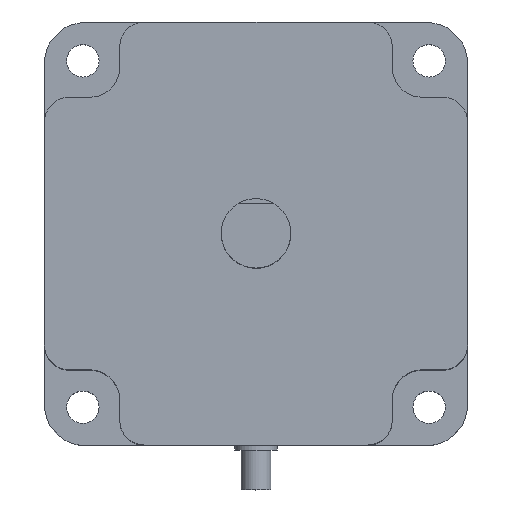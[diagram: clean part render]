
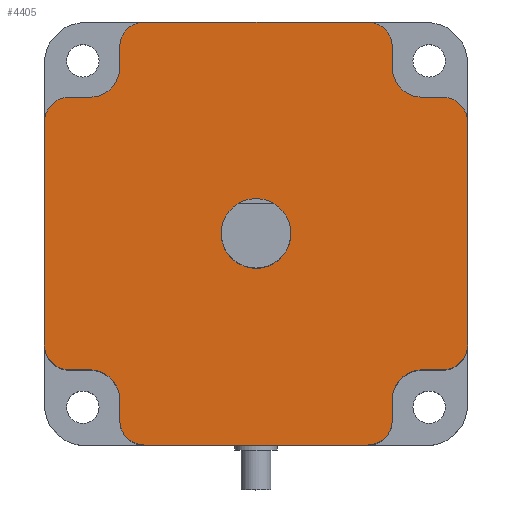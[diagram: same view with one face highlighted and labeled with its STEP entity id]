
A CAD part, top view. The second image highlights one B-rep face of the part: STEP entity #4405.
In plain terms, the highlighted planar face has unit normal (0, 0, 1).
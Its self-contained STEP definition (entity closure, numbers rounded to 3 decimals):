
#105=CARTESIAN_POINT('',(7.,0.,56.));
#106=VERTEX_POINT('',#105);
#107=CARTESIAN_POINT('',(0.0,0.,56.));
#108=DIRECTION('',(0.0,0.0,-1.0));
#109=DIRECTION('',(-1.0,0.0,0.0));
#110=AXIS2_PLACEMENT_3D('',#107,#108,#109);
#111=CIRCLE('',#110,7.);
#112=EDGE_CURVE('',#106,#106,#111,.T.);
#1389=CARTESIAN_POINT('',(27.378,37.5,56.));
#1390=VERTEX_POINT('',#1389);
#1397=CARTESIAN_POINT('',(27.378,33.378,56.));
#1398=VERTEX_POINT('',#1397);
#1399=CARTESIAN_POINT('',(27.378,37.5,56.));
#1400=DIRECTION('',(0.0,-1.0,0.0));
#1401=VECTOR('',#1400,4.122);
#1402=LINE('',#1399,#1401);
#1403=EDGE_CURVE('',#1390,#1398,#1402,.T.);
#1421=CARTESIAN_POINT('',(33.378,27.378,56.));
#1422=VERTEX_POINT('',#1421);
#1423=CARTESIAN_POINT('',(33.378,33.378,56.));
#1424=DIRECTION('',(0.0,0.0,1.));
#1425=DIRECTION('',(-0.707,-0.707,0.0));
#1426=AXIS2_PLACEMENT_3D('',#1423,#1424,#1425);
#1427=CIRCLE('',#1426,6.0);
#1428=EDGE_CURVE('',#1398,#1422,#1427,.T.);
#1477=CARTESIAN_POINT('',(22.378,42.5,56.));
#1478=VERTEX_POINT('',#1477);
#1485=CARTESIAN_POINT('',(22.378,37.5,56.));
#1486=DIRECTION('',(0.0,0.0,-1.0));
#1487=DIRECTION('',(0.707,0.707,0.0));
#1488=AXIS2_PLACEMENT_3D('',#1485,#1486,#1487);
#1489=CIRCLE('',#1488,5.0);
#1490=EDGE_CURVE('',#1478,#1390,#1489,.T.);
#1503=CARTESIAN_POINT('',(37.5,27.378,56.));
#1504=VERTEX_POINT('',#1503);
#1505=CARTESIAN_POINT('',(33.378,27.378,56.));
#1506=DIRECTION('',(1.0,0.0,0.0));
#1507=VECTOR('',#1506,4.122);
#1508=LINE('',#1505,#1507);
#1509=EDGE_CURVE('',#1422,#1504,#1508,.T.);
#1550=CARTESIAN_POINT('',(-22.378,42.5,56.));
#1551=VERTEX_POINT('',#1550);
#1558=CARTESIAN_POINT('',(-22.378,42.5,56.));
#1559=DIRECTION('',(1.0,0.0,0.0));
#1560=VECTOR('',#1559,44.757);
#1561=LINE('',#1558,#1560);
#1562=EDGE_CURVE('',#1551,#1478,#1561,.T.);
#1575=CARTESIAN_POINT('',(42.5,22.378,56.));
#1576=VERTEX_POINT('',#1575);
#1577=CARTESIAN_POINT('',(37.5,22.378,56.));
#1578=DIRECTION('',(0.0,0.0,-1.));
#1579=DIRECTION('',(0.707,0.707,0.0));
#1580=AXIS2_PLACEMENT_3D('',#1577,#1578,#1579);
#1581=CIRCLE('',#1580,5.);
#1582=EDGE_CURVE('',#1504,#1576,#1581,.T.);
#1624=CARTESIAN_POINT('',(-27.378,37.5,56.));
#1625=VERTEX_POINT('',#1624);
#1632=CARTESIAN_POINT('',(-22.378,37.5,56.));
#1633=DIRECTION('',(0.0,0.0,-1.));
#1634=DIRECTION('',(-0.707,0.707,0.0));
#1635=AXIS2_PLACEMENT_3D('',#1632,#1633,#1634);
#1636=CIRCLE('',#1635,5.);
#1637=EDGE_CURVE('',#1625,#1551,#1636,.T.);
#1650=CARTESIAN_POINT('',(42.5,-22.378,56.));
#1651=VERTEX_POINT('',#1650);
#1652=CARTESIAN_POINT('',(42.5,22.378,56.));
#1653=DIRECTION('',(0.0,-1.0,0.0));
#1654=VECTOR('',#1653,44.757);
#1655=LINE('',#1652,#1654);
#1656=EDGE_CURVE('',#1576,#1651,#1655,.T.);
#1697=CARTESIAN_POINT('',(-27.378,33.378,56.));
#1698=VERTEX_POINT('',#1697);
#1705=CARTESIAN_POINT('',(-27.378,33.378,56.));
#1706=DIRECTION('',(0.0,1.0,0.0));
#1707=VECTOR('',#1706,4.122);
#1708=LINE('',#1705,#1707);
#1709=EDGE_CURVE('',#1698,#1625,#1708,.T.);
#1722=CARTESIAN_POINT('',(37.5,-27.378,56.));
#1723=VERTEX_POINT('',#1722);
#1724=CARTESIAN_POINT('',(37.5,-22.378,56.));
#1725=DIRECTION('',(0.0,0.0,-1.));
#1726=DIRECTION('',(0.707,-0.707,0.0));
#1727=AXIS2_PLACEMENT_3D('',#1724,#1725,#1726);
#1728=CIRCLE('',#1727,5.);
#1729=EDGE_CURVE('',#1651,#1723,#1728,.T.);
#1771=CARTESIAN_POINT('',(-33.378,27.378,56.));
#1772=VERTEX_POINT('',#1771);
#1779=CARTESIAN_POINT('',(-33.378,33.378,56.));
#1780=DIRECTION('',(0.0,0.0,1.));
#1781=DIRECTION('',(0.707,-0.707,0.0));
#1782=AXIS2_PLACEMENT_3D('',#1779,#1780,#1781);
#1783=CIRCLE('',#1782,6.);
#1784=EDGE_CURVE('',#1772,#1698,#1783,.T.);
#1797=CARTESIAN_POINT('',(33.378,-27.378,56.));
#1798=VERTEX_POINT('',#1797);
#1799=CARTESIAN_POINT('',(37.5,-27.378,56.));
#1800=DIRECTION('',(-1.0,0.0,0.0));
#1801=VECTOR('',#1800,4.122);
#1802=LINE('',#1799,#1801);
#1803=EDGE_CURVE('',#1723,#1798,#1802,.T.);
#1844=CARTESIAN_POINT('',(-37.5,27.378,56.));
#1845=VERTEX_POINT('',#1844);
#1852=CARTESIAN_POINT('',(-37.5,27.378,56.));
#1853=DIRECTION('',(1.0,0.0,0.0));
#1854=VECTOR('',#1853,4.122);
#1855=LINE('',#1852,#1854);
#1856=EDGE_CURVE('',#1845,#1772,#1855,.T.);
#1869=CARTESIAN_POINT('',(27.378,-33.378,56.));
#1870=VERTEX_POINT('',#1869);
#1871=CARTESIAN_POINT('',(33.378,-33.378,56.));
#1872=DIRECTION('',(0.0,0.0,1.));
#1873=DIRECTION('',(-0.707,0.707,0.0));
#1874=AXIS2_PLACEMENT_3D('',#1871,#1872,#1873);
#1875=CIRCLE('',#1874,6.0);
#1876=EDGE_CURVE('',#1798,#1870,#1875,.T.);
#1918=CARTESIAN_POINT('',(-42.5,22.378,56.));
#1919=VERTEX_POINT('',#1918);
#1926=CARTESIAN_POINT('',(-37.5,22.378,56.));
#1927=DIRECTION('',(0.0,0.0,-1.));
#1928=DIRECTION('',(-0.707,0.707,0.0));
#1929=AXIS2_PLACEMENT_3D('',#1926,#1927,#1928);
#1930=CIRCLE('',#1929,5.);
#1931=EDGE_CURVE('',#1919,#1845,#1930,.T.);
#1944=CARTESIAN_POINT('',(27.378,-37.5,56.));
#1945=VERTEX_POINT('',#1944);
#1946=CARTESIAN_POINT('',(27.378,-33.378,56.));
#1947=DIRECTION('',(0.0,-1.0,0.0));
#1948=VECTOR('',#1947,4.122);
#1949=LINE('',#1946,#1948);
#1950=EDGE_CURVE('',#1870,#1945,#1949,.T.);
#1991=CARTESIAN_POINT('',(-42.5,-22.378,56.));
#1992=VERTEX_POINT('',#1991);
#1999=CARTESIAN_POINT('',(-42.5,-22.378,56.));
#2000=DIRECTION('',(0.0,1.0,0.0));
#2001=VECTOR('',#2000,44.757);
#2002=LINE('',#1999,#2001);
#2003=EDGE_CURVE('',#1992,#1919,#2002,.T.);
#2016=CARTESIAN_POINT('',(22.378,-42.5,56.));
#2017=VERTEX_POINT('',#2016);
#2018=CARTESIAN_POINT('',(22.378,-37.5,56.));
#2019=DIRECTION('',(0.0,0.0,-1.));
#2020=DIRECTION('',(0.707,-0.707,0.0));
#2021=AXIS2_PLACEMENT_3D('',#2018,#2019,#2020);
#2022=CIRCLE('',#2021,5.);
#2023=EDGE_CURVE('',#1945,#2017,#2022,.T.);
#2065=CARTESIAN_POINT('',(-37.5,-27.378,56.));
#2066=VERTEX_POINT('',#2065);
#2073=CARTESIAN_POINT('',(-37.5,-22.378,56.));
#2074=DIRECTION('',(0.0,0.0,-1.0));
#2075=DIRECTION('',(-0.707,-0.707,0.0));
#2076=AXIS2_PLACEMENT_3D('',#2073,#2074,#2075);
#2077=CIRCLE('',#2076,5.0);
#2078=EDGE_CURVE('',#2066,#1992,#2077,.T.);
#2091=CARTESIAN_POINT('',(-22.378,-42.5,56.));
#2092=VERTEX_POINT('',#2091);
#2093=CARTESIAN_POINT('',(22.378,-42.5,56.));
#2094=DIRECTION('',(-1.0,0.0,0.0));
#2095=VECTOR('',#2094,44.757);
#2096=LINE('',#2093,#2095);
#2097=EDGE_CURVE('',#2017,#2092,#2096,.T.);
#2149=CARTESIAN_POINT('',(-33.378,-27.378,56.));
#2150=VERTEX_POINT('',#2149);
#2157=CARTESIAN_POINT('',(-33.378,-27.378,56.));
#2158=DIRECTION('',(-1.0,0.0,0.0));
#2159=VECTOR('',#2158,4.122);
#2160=LINE('',#2157,#2159);
#2161=EDGE_CURVE('',#2150,#2066,#2160,.T.);
#2174=CARTESIAN_POINT('',(-27.378,-37.5,56.));
#2175=VERTEX_POINT('',#2174);
#2176=CARTESIAN_POINT('',(-22.378,-37.5,56.));
#2177=DIRECTION('',(0.0,0.0,-1.0));
#2178=DIRECTION('',(-0.707,-0.707,0.0));
#2179=AXIS2_PLACEMENT_3D('',#2176,#2177,#2178);
#2180=CIRCLE('',#2179,5.0);
#2181=EDGE_CURVE('',#2092,#2175,#2180,.T.);
#2223=CARTESIAN_POINT('',(-27.378,-33.378,56.));
#2224=VERTEX_POINT('',#2223);
#2231=CARTESIAN_POINT('',(-33.378,-33.378,56.));
#2232=DIRECTION('',(0.0,0.0,1.));
#2233=DIRECTION('',(0.707,0.707,0.0));
#2234=AXIS2_PLACEMENT_3D('',#2231,#2232,#2233);
#2235=CIRCLE('',#2234,6.);
#2236=EDGE_CURVE('',#2224,#2150,#2235,.T.);
#2249=CARTESIAN_POINT('',(-27.378,-37.5,56.));
#2250=DIRECTION('',(0.0,1.0,0.0));
#2251=VECTOR('',#2250,4.122);
#2252=LINE('',#2249,#2251);
#2253=EDGE_CURVE('',#2175,#2224,#2252,.T.);
#4371=CARTESIAN_POINT('',(0.,0.,56.));
#4372=DIRECTION('',(0.0,0.0,1.0));
#4373=DIRECTION('',(1.0,0.0,0.0));
#4374=AXIS2_PLACEMENT_3D('',#4371,#4372,#4373);
#4375=PLANE('',#4374);
#4376=ORIENTED_EDGE('',*,*,#2023,.F.);
#4377=ORIENTED_EDGE('',*,*,#1950,.F.);
#4378=ORIENTED_EDGE('',*,*,#1876,.F.);
#4379=ORIENTED_EDGE('',*,*,#1803,.F.);
#4380=ORIENTED_EDGE('',*,*,#1729,.F.);
#4381=ORIENTED_EDGE('',*,*,#1656,.F.);
#4382=ORIENTED_EDGE('',*,*,#1582,.F.);
#4383=ORIENTED_EDGE('',*,*,#1509,.F.);
#4384=ORIENTED_EDGE('',*,*,#1428,.F.);
#4385=ORIENTED_EDGE('',*,*,#1403,.F.);
#4386=ORIENTED_EDGE('',*,*,#1490,.F.);
#4387=ORIENTED_EDGE('',*,*,#1562,.F.);
#4388=ORIENTED_EDGE('',*,*,#1637,.F.);
#4389=ORIENTED_EDGE('',*,*,#1709,.F.);
#4390=ORIENTED_EDGE('',*,*,#1784,.F.);
#4391=ORIENTED_EDGE('',*,*,#1856,.F.);
#4392=ORIENTED_EDGE('',*,*,#1931,.F.);
#4393=ORIENTED_EDGE('',*,*,#2003,.F.);
#4394=ORIENTED_EDGE('',*,*,#2078,.F.);
#4395=ORIENTED_EDGE('',*,*,#2161,.F.);
#4396=ORIENTED_EDGE('',*,*,#2236,.F.);
#4397=ORIENTED_EDGE('',*,*,#2253,.F.);
#4398=ORIENTED_EDGE('',*,*,#2181,.F.);
#4399=ORIENTED_EDGE('',*,*,#2097,.F.);
#4400=EDGE_LOOP('',(#4376,#4377,#4378,#4379,#4380,#4381,#4382,#4383,#4384,#4385,#4386,#4387,#4388,#4389,#4390,#4391,#4392,#4393,#4394,#4395,#4396,#4397,#4398,#4399));
#4401=FACE_OUTER_BOUND('',#4400,.T.);
#4402=ORIENTED_EDGE('',*,*,#112,.T.);
#4403=EDGE_LOOP('',(#4402));
#4404=FACE_BOUND('',#4403,.T.);
#4405=ADVANCED_FACE('',(#4401,#4404),#4375,.T.);
